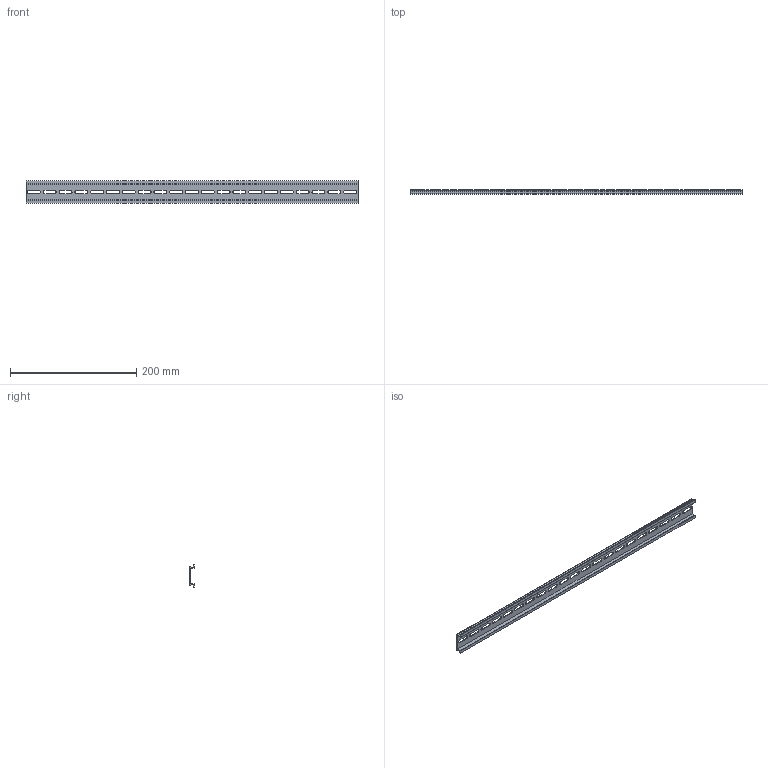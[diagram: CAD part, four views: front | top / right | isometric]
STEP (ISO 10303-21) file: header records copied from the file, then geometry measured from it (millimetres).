
FILE_DESCRIPTION( (''), '2;1');
FILE_NAME ('CVICAD02.15516.DIN-RAIL525_7485.stp','2020-09-01T14:18:52',(''),(''),'spGate 12.6.6','','');
FILE_SCHEMA (('AUTOMOTIVE_DESIGN'));
Length unit declared in the file: millimetre
Bounding box: 525 x 7.5 x 35 mm (x, y, z)
Volume: 37065 mm3; surface area: 49520.5 mm2
Topology: 1 solids, 1 shells, 104 faces, 306 edges, 204 vertices
Faces by surface type: plane 60, cylinder 44
Entity records: 5941 total; most frequent: CARTESIAN_POINT 614, ORIENTED_EDGE 612, DIRECTION 602, COLOUR_RGB 411, PRESENTATION_STYLE_ASSIGNMENT 411, STYLED_ITEM 411, EDGE_CURVE 306, DRAUGHTING_PRE_DEFINED_CURVE_FONT 306
